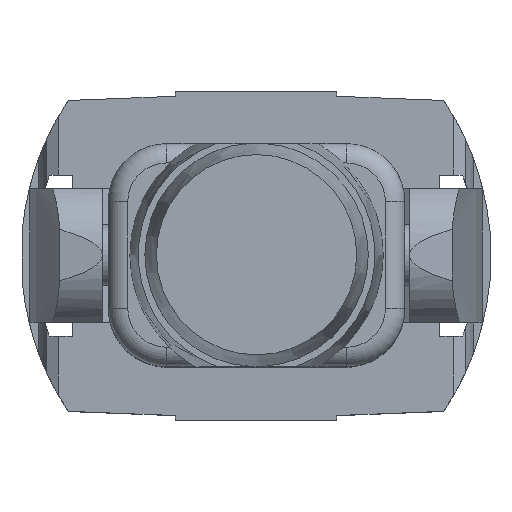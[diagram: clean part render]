
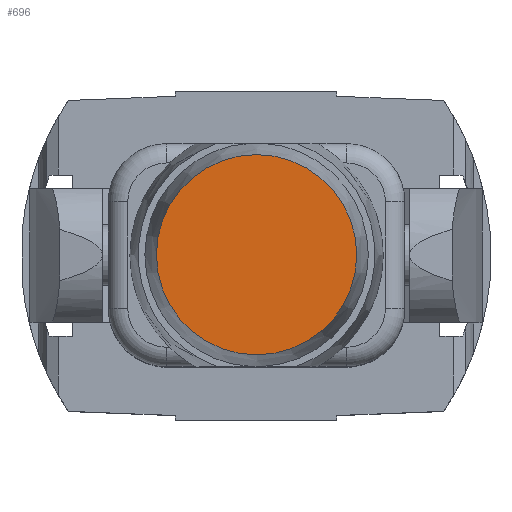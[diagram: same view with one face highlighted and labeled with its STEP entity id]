
A CAD part, top view. The second image highlights one B-rep face of the part: STEP entity #696.
In plain terms, the highlighted planar face has unit normal (0, 0, 1).
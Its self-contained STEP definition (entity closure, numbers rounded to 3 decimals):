
#696 = ADVANCED_FACE( '', ( #1445 ), #1446, .T. );
#1445 = FACE_OUTER_BOUND( '', #2252, .T. );
#1446 = PLANE( '', #2253 );
#2252 = EDGE_LOOP( '', ( #3911 ) );
#2253 = AXIS2_PLACEMENT_3D( '', #3912, #3913, #3914 );
#3911 = ORIENTED_EDGE( '', *, *, #4871, .F. );
#3912 = CARTESIAN_POINT( '', ( 753.147, -103.253, 801.011 ) );
#3913 = DIRECTION( '', ( 0., 0., 1. ) );
#3914 = DIRECTION( '', ( 0., -1., 0. ) );
#4871 = EDGE_CURVE( '', #5858, #5858, #5859, .T. );
#5858 = VERTEX_POINT( '', #7477 );
#5859 = CIRCLE( '', #7478, 103.253 );
#7477 = CARTESIAN_POINT( '', ( 0., 103.253, 801.011 ) );
#7478 = AXIS2_PLACEMENT_3D( '', #8813, #8814, #8815 );
#8813 = CARTESIAN_POINT( '', ( 0., 0., 801.011 ) );
#8814 = DIRECTION( '', ( 0., 0., -1. ) );
#8815 = DIRECTION( '', ( 0., 1., 0. ) );
